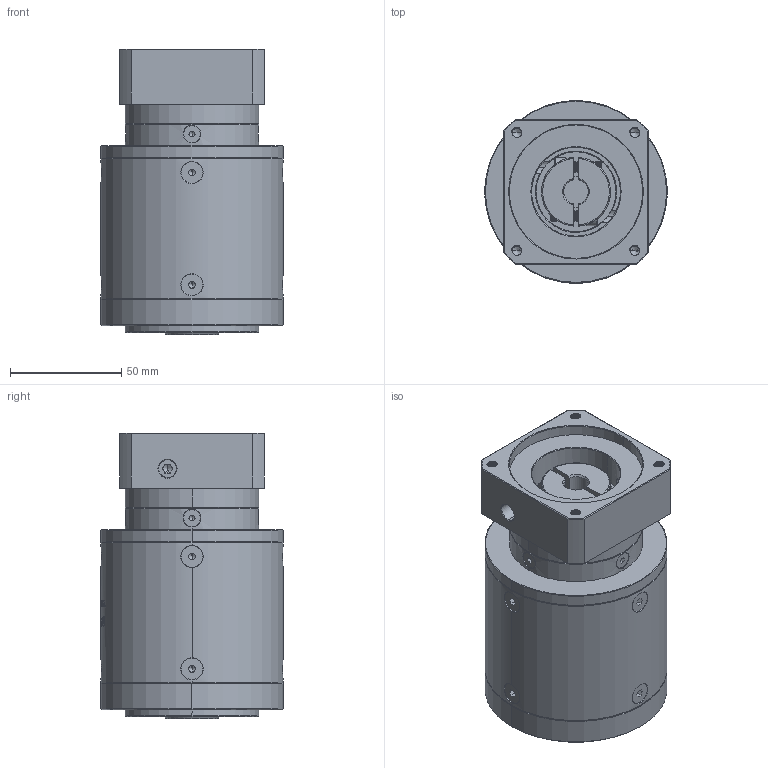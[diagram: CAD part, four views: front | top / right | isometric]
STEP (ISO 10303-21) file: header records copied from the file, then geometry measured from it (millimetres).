
FILE_DESCRIPTION (( 'STEP AP214' ), '1' );
FILE_NAME ('ZE80-K15-L3-11-60-75-M5.step', '2022-05-08T06:08:03', ( '' ), ( 'Microsoft' ), 'SwSTEP 2.0', 'SolidWorks 2016', '' );
FILE_SCHEMA (( 'AUTOMOTIVE_DESIGN' ));
Length unit declared in the file: millimetre
Products named in the file (1): ZE80-K15-L3-11-60-75-M5
Bounding box: 82 x 82 x 128.5 mm (x, y, z)
Volume: 542276.8 mm3; surface area: 70592.6 mm2
Topology: 18 solids, 18 shells, 2082 faces, 5486 edges, 3495 vertices
Faces by surface type: plane 941, cylinder 490, bspline 330, cone 307, torus 14
Entity records: 115563 total; most frequent: CARTESIAN_POINT 45236, ORIENTED_EDGE 10884, DIRECTION 8507, EDGE_CURVE 5442, VERTEX_POINT 3495, LINE 2925, VECTOR 2925, AXIS2_PLACEMENT_3D 2791
